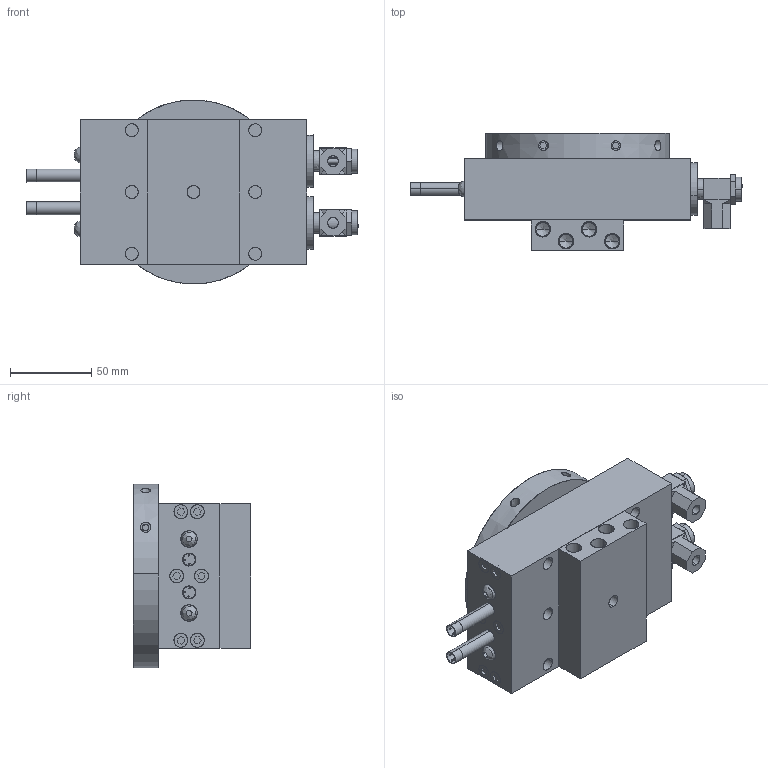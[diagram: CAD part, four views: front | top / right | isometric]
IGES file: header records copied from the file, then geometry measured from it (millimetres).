
Start section: SolidWorks IGES file using analytic representation for surfaces
Global section: file name: C:\Users\jmkuhnes\Pictures\My Transfers\AGR\AGR-4 MANFLD\AGR-4 MANFLD in MM.IGS; native system: SolidWorks 2013; preprocessor: SolidWorks 2013; author: jmkuhnes; date: 141105.135034; units: millimetre
Bounding box: 204.85 x 72.62 x 113.5 mm (x, y, z)
Surface area: 118432.1 mm2 (no closed solid volume)
Topology: 0 solids, 0 shells, 532 faces, 9159 edges, 9151 vertices
Faces by surface type: bspline 301, revolution 231
